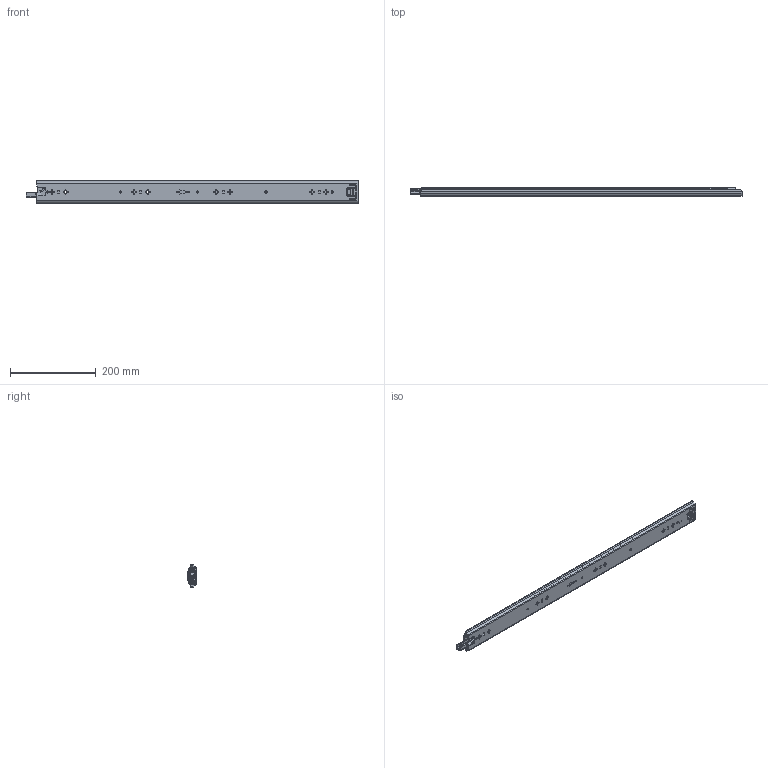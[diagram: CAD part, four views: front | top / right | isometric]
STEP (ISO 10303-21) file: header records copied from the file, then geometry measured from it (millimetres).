
FILE_DESCRIPTION((''),'2;1');
FILE_NAME('1053-3S-30ZUZHUANGTU_ASM','2023-04-12T',('jishu015'),(''),'PRO/ENGINEER BY PARAMETRIC TECHNOLOGY CORPORATION, 2010280','PRO/ENGINEER BY PARAMETRIC TECHNOLOGY CORPORATION, 2010280','');
FILE_SCHEMA(('CONFIG_CONTROL_DESIGN'));
Products named in the file (20): 1053-02-18WAIKE_________; 1053WEIJIAO_________; 1053-3S-24WAIKE__________ASM; 1053ZHUTIAO-175_________; 53-5-6GANZHU_________; 1053ZHUTIAO-175MM__________ASM; 1053-02-18ZHONGGUI_________; ZHONGGUIPEIJIAN_______; ZHONGGUISUOKOU_______; 1053-02-18ZHONGGUI__________ASM; 1053XIAOZHUJIA-14GE_________; 1053XIAOZHUJIA-14GE__________ASM; 1053-02-18NEIGUI_________; DAOPIAN_____; PIAN_____; 1053-3SBANJI123____; JIAO-11____; 50XINSUOKOU11___; 1053-02-18NEIGUI__________ASM; 1053-3S-30ZUZHUANGTU_ASM
Assembly tree (84 placements, depth 3):
  1053-3S-30ZUZHUANGTU_ASM
    1053-3S-24WAIKE__________ASM
      1053-02-18WAIKE_________
      1053WEIJIAO_________
    1053ZHUTIAO-175MM__________ASM  x2
      1053ZHUTIAO-175_________
      53-5-6GANZHU_________
    1053-02-18ZHONGGUI__________ASM
      1053-02-18ZHONGGUI_________
      ZHONGGUIPEIJIAN_______
      ZHONGGUISUOKOU_______
    1053XIAOZHUJIA-14GE__________ASM
      1053XIAOZHUJIA-14GE_________
      53-5-6GANZHU_________  x52
    1053-02-18NEIGUI__________ASM
      1053-02-18NEIGUI_________
      DAOPIAN_____
      PIAN_____
      1053-3SBANJI123____
      JIAO-11____
      50XINSUOKOU11___
Bounding box: 775.42 x 18.7 x 53 mm (x, y, z)
Volume: 284885.4 mm3; surface area: 329921.6 mm2
Topology: 93 solids, 93 shells, 2424 faces, 7007 edges, 4381 vertices
Faces by surface type: cylinder 1050, plane 984, sphere 164, bspline 109, cone 78, extrusion 23, torus 16
Entity records: 78765 total; most frequent: CARTESIAN_POINT 19738, ORIENTED_EDGE 12548, DIRECTION 12098, EDGE_CURVE 6274, AXIS2_PLACEMENT_3D 4183, VERTEX_POINT 4055, VECTOR 3732, LINE 3709
